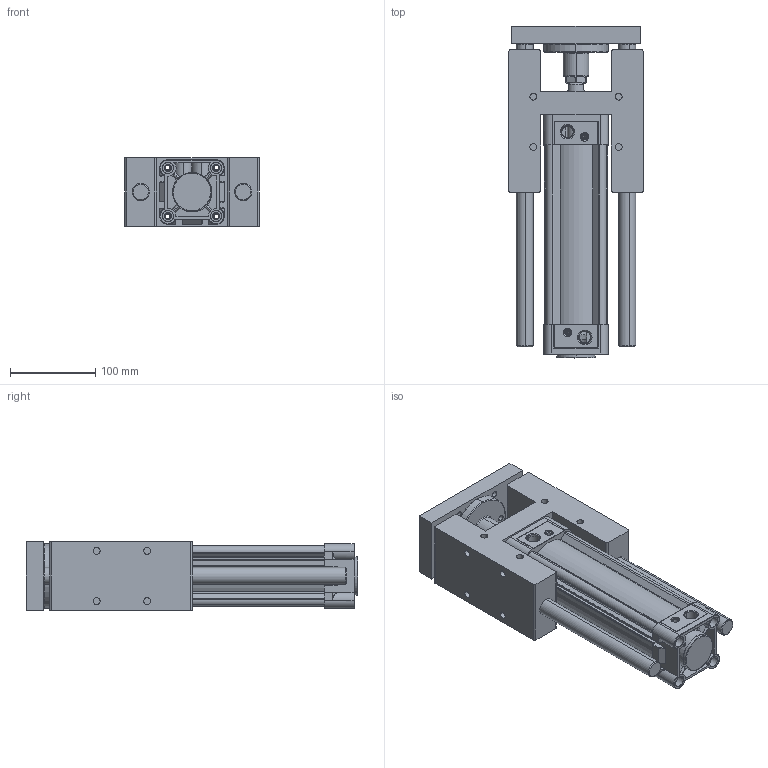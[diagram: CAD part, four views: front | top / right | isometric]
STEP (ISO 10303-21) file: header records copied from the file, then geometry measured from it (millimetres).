
FILE_DESCRIPTION (( 'STEP AP203' ), '1' );
FILE_NAME ('KDNT63X160H-YATAK.STEP', '2016-05-18T13:01:56', ( 'user' ), ( '' ), 'SwSTEP 2.0', 'SolidWorks 2013', '' );
FILE_SCHEMA (( 'CONFIG_CONTROL_DESIGN' ));
Length unit declared in the file: millimetre
Products named in the file (11): DNC-H-YATAK MÝL YATAÐI 63; ARKA KAPAK  63; KDNT 63X160 BORU; ORTA PÝSTON 63; 烰 KAPAK  63; Piston Mili 63x160; DNC-H-YATAK 63; SOMUN 63; DNC-H-YATAK M尳 63X160; KDNT63X160H-YATAK; DNC-H-YATAK TABLA 63
Assembly tree (11 placements, depth 2):
  KDNT63X160H-YATAK
    DNC-H-YATAK 63
    DNC-H-YATAK M尳 63X160  x2
    DNC-H-YATAK TABLA 63
    DNC-H-YATAK MÝL YATAÐI 63
    ARKA KAPAK  63
    KDNT 63X160 BORU
    ORTA PÝSTON 63
    烰 KAPAK  63
    Piston Mili 63x160
    SOMUN 63
Bounding box: 157 x 388.7 x 80.5 mm (x, y, z)
Volume: 2117875.3 mm3; surface area: 518915 mm2
Topology: 11 solids, 11 shells, 1031 faces, 2596 edges, 1664 vertices
Faces by surface type: cylinder 516, plane 333, cone 94, bspline 76, torus 12
Entity records: 40560 total; most frequent: CARTESIAN_POINT 15027, ORIENTED_EDGE 5156, DIRECTION 5020, EDGE_CURVE 2578, AXIS2_PLACEMENT_3D 1957, VERTEX_POINT 1656, EDGE_LOOP 1202, LINE 1106
